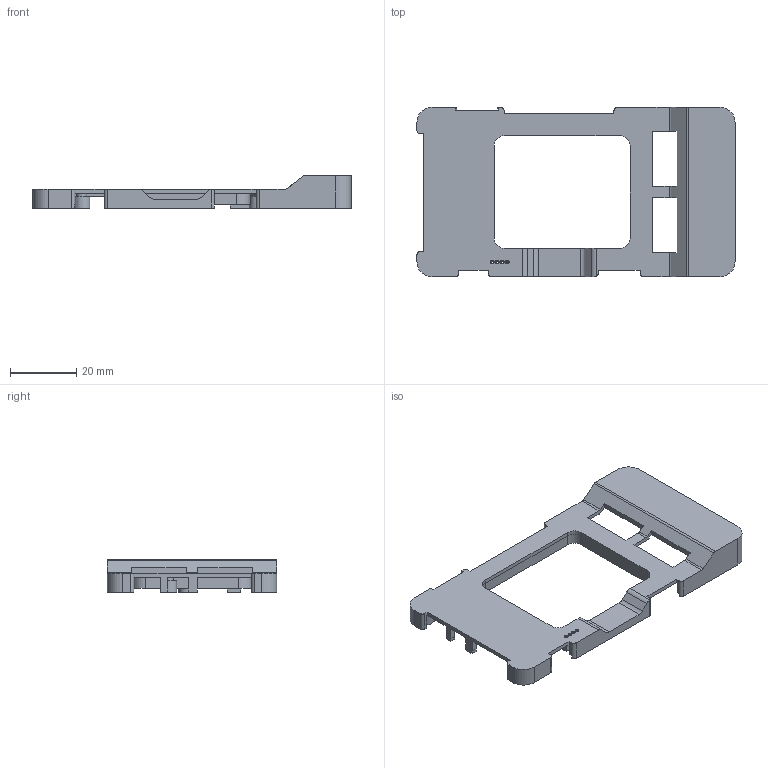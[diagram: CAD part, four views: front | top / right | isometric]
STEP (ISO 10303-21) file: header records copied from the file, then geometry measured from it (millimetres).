
FILE_DESCRIPTION(/* description */ (''),/* implementation_level */ '2;1');
FILE_NAME(/* name */ '800-10090 ENCLOSURE, VMU-RT1176 MAIN LID, SLA RESIN.step',/* time_stamp */ '2025-07-22T13:31:09-06:00',/* author */ (''),/* organization */ (''),/* preprocessor_version */ 'ST-DEVELOPER v20.1',/* originating_system */ 'Autodesk Translation Framework v14.10.0.0',/* authorisation */ '');
FILE_SCHEMA (('AUTOMOTIVE_DESIGN { 1 0 10303 214 3 1 1 }'));
Length unit declared in the file: millimetre
Products named in the file (1): 800-10090 ENCLOSURE, VMU-RT1176 MAIN LID, SLA RESIN
Bounding box: 96.01 x 51.1 x 9.79 mm (x, y, z)
Volume: 6258.7 mm3; surface area: 10175.8 mm2
Topology: 1 solids, 1 shells, 263 faces, 756 edges, 494 vertices
Faces by surface type: plane 187, cylinder 66, cone 10
Full cylindrical faces by diameter (mm): 0.7 x4, 1.7 x4, 3 x2, 5 x2
Entity records: 8619 total; most frequent: CARTESIAN_POINT 1525, ORIENTED_EDGE 1512, DIRECTION 1443, EDGE_CURVE 756, LINE 587, VECTOR 587, VERTEX_POINT 494, AXIS2_PLACEMENT_3D 428
